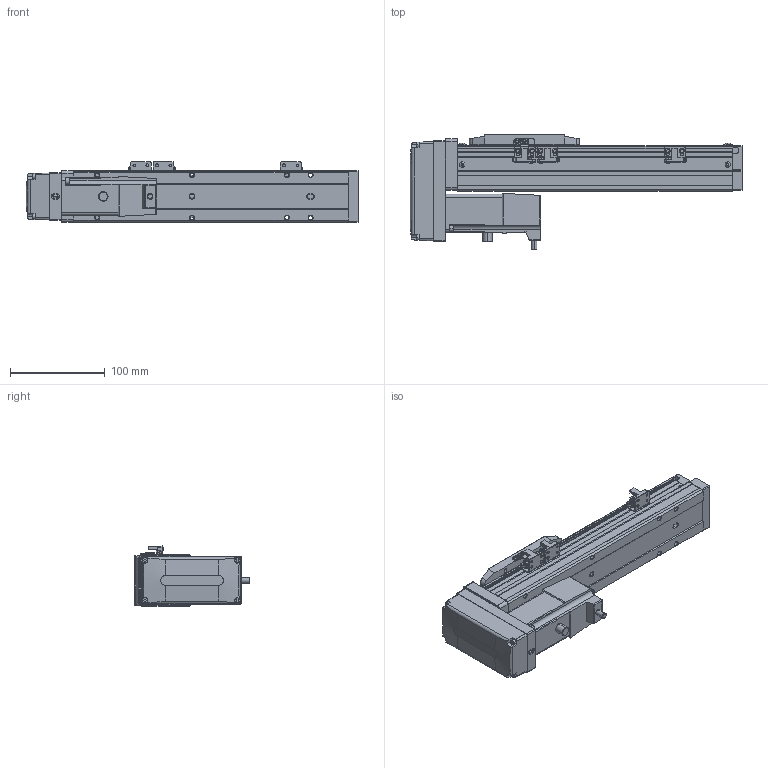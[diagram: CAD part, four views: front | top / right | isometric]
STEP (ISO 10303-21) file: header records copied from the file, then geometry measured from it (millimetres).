
FILE_DESCRIPTION (( 'STEP AP203' ), '1' );
FILE_NAME ('CTH5-L10-S150-BM-C10(¼ò).STEP', '2023-02-04T02:23:23', ( '' ), ( '' ), 'SwSTEP 2.0', 'SolidWorks 2018', '' );
FILE_SCHEMA (( 'CONFIG_CONTROL_DESIGN' ));
Length unit declared in the file: millimetre
Products named in the file (22): CTH5菁釱-L290; CTH5耜蚾欶; CTH5-L10-S150-BM-C10(潠); 葩璃 蚾饜极16^CTH5-L10-S150-BM-C10(潠); CTH5耜晚蹟隊-1; 葩璃 蚾饜极13^CTH8-L10-S50-BM-C40(潠)1; hex nuts, style 1-grades ab gb_GB_FASTENER_NUT_SNAB1 M3-N; 100W萇儂; M3｡｣; CTH5賑怢; CTH5耜蚾蟀諉啣(潠); CTH嫖萇羲壽假蚾啣; CTH100W假蚾啣; CTH5耜晚蹟隊; CTH5-BL-T10_body5; 内六角圆柱头螺钉M3-2; 嫖萇羲壽郪磁1; T10-p1; CTH5覜茼え; PM-Y45; CTH5綴耜啣; CTH5ヶ耜啣(潠)
Assembly tree (37 placements, depth 4):
  CTH5-L10-S150-BM-C10(潠)
    CTH5綴耜啣
    CTH5賑怢
    CTH5ヶ耜啣(潠)
    CTH5菁釱-L290
    CTH5耜晚蹟隊  x2
    嫖萇羲壽郪磁1  x2
      CTH嫖萇羲壽假蚾啣
      PM-Y45
      M3｡｣
      内六角圆柱头螺钉M3-2
      hex nuts, style 1-grades ab gb_GB_FASTENER_NUT_SNAB1 M3-N
    CTH5覜茼え
    葩璃 蚾饜极13^CTH8-L10-S50-BM-C40(潠)1
      CTH嫖萇羲壽假蚾啣
      PM-Y45
      内六角圆柱头螺钉M3-2  x2
      M3｡｣  x2
      hex nuts, style 1-grades ab gb_GB_FASTENER_NUT_SNAB1 M3-N  x2
    CTH5耜晚蹟隊-1  x4
    葩璃 蚾饜极16^CTH5-L10-S150-BM-C10(潠)
      CTH5耜蚾蟀諉啣(潠)
      CTH5耜蚾欶
        CTH5-BL-T10_body5
      100W萇儂
        T10-p1
      CTH100W假蚾啣
Bounding box: 350 x 122.21 x 63.3 mm (x, y, z)
Volume: 1041576.3 mm3; surface area: 175164.6 mm2
Topology: 39 solids, 39 shells, 1571 faces, 3931 edges, 2544 vertices
Faces by surface type: plane 890, cylinder 456, cone 167, torus 40, bspline 18
Entity records: 36265 total; most frequent: CARTESIAN_POINT 6712, DIRECTION 5695, ORIENTED_EDGE 5486, EDGE_CURVE 2743, AXIS2_PLACEMENT_3D 1946, LINE 1803, VECTOR 1803, VERTEX_POINT 1772
